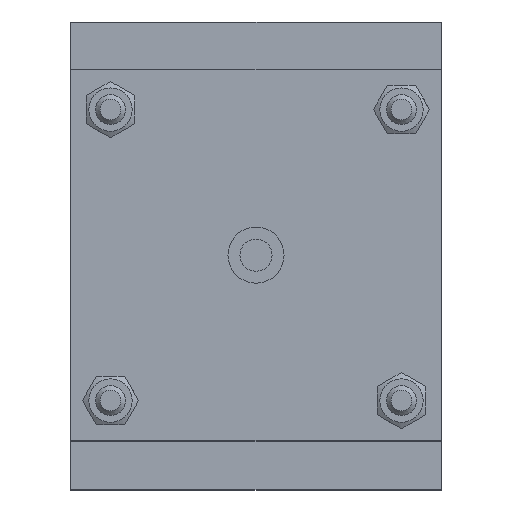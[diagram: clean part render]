
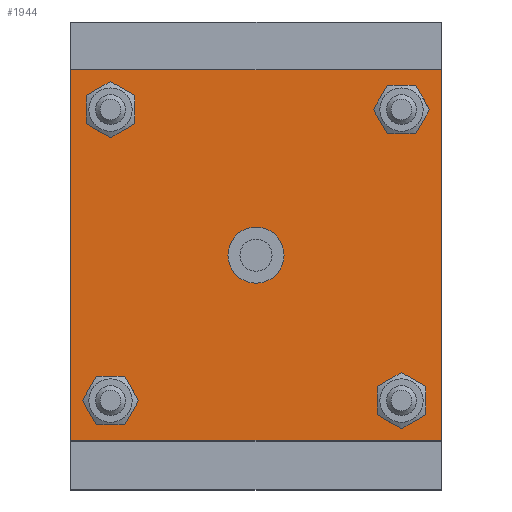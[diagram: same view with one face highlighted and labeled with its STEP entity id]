
A CAD part, top view. The second image highlights one B-rep face of the part: STEP entity #1944.
In plain terms, the highlighted planar face has unit normal (0, 0, 1).
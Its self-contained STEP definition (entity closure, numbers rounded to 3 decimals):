
#314=CARTESIAN_POINT('',(-44.691,-38.891,160.));
#315=VERTEX_POINT('',#314);
#316=CARTESIAN_POINT('',(-38.891,-38.891,160.));
#317=DIRECTION('',(0.0,0.0,-1.0));
#318=DIRECTION('',(-1.0,0.0,0.0));
#319=AXIS2_PLACEMENT_3D('',#316,#317,#318);
#320=CIRCLE('',#319,5.8);
#321=EDGE_CURVE('',#315,#315,#320,.T.);
#674=CARTESIAN_POINT('',(-38.891,44.691,160.));
#675=VERTEX_POINT('',#674);
#676=CARTESIAN_POINT('',(-38.891,38.891,160.));
#677=DIRECTION('',(0.0,0.0,-1.0));
#678=DIRECTION('',(0.0,1.0,0.0));
#679=AXIS2_PLACEMENT_3D('',#676,#677,#678);
#680=CIRCLE('',#679,5.8);
#681=EDGE_CURVE('',#675,#675,#680,.T.);
#1034=CARTESIAN_POINT('',(44.691,38.891,160.));
#1035=VERTEX_POINT('',#1034);
#1036=CARTESIAN_POINT('',(38.891,38.891,160.));
#1037=DIRECTION('',(0.0,0.0,-1.0));
#1038=DIRECTION('',(1.0,0.0,0.0));
#1039=AXIS2_PLACEMENT_3D('',#1036,#1037,#1038);
#1040=CIRCLE('',#1039,5.8);
#1041=EDGE_CURVE('',#1035,#1035,#1040,.T.);
#1394=CARTESIAN_POINT('',(38.891,-44.691,160.));
#1395=VERTEX_POINT('',#1394);
#1396=CARTESIAN_POINT('',(38.891,-38.891,160.));
#1397=DIRECTION('',(0.0,0.0,-1.0));
#1398=DIRECTION('',(0.0,-1.0,0.0));
#1399=AXIS2_PLACEMENT_3D('',#1396,#1397,#1398);
#1400=CIRCLE('',#1399,5.8);
#1401=EDGE_CURVE('',#1395,#1395,#1400,.T.);
#1738=CARTESIAN_POINT('',(7.5,0.0,160.));
#1739=VERTEX_POINT('',#1738);
#1740=CARTESIAN_POINT('',(0.0,0.0,160.));
#1741=DIRECTION('',(0.0,0.0,-1.0));
#1742=DIRECTION('',(1.0,0.0,0.0));
#1743=AXIS2_PLACEMENT_3D('',#1740,#1741,#1742);
#1744=CIRCLE('',#1743,7.5);
#1745=EDGE_CURVE('',#1739,#1739,#1744,.T.);
#1799=CARTESIAN_POINT('',(49.5,49.5,160.));
#1800=VERTEX_POINT('',#1799);
#1801=CARTESIAN_POINT('',(49.5,-49.5,160.));
#1802=VERTEX_POINT('',#1801);
#1803=CARTESIAN_POINT('',(49.5,49.5,160.));
#1804=DIRECTION('',(0.0,-1.0,0.0));
#1805=VECTOR('',#1804,99.0);
#1806=LINE('',#1803,#1805);
#1807=EDGE_CURVE('',#1800,#1802,#1806,.T.);
#1839=CARTESIAN_POINT('',(-49.5,-49.5,160.));
#1840=VERTEX_POINT('',#1839);
#1841=CARTESIAN_POINT('',(49.5,-49.5,160.));
#1842=DIRECTION('',(-1.0,0.0,0.0));
#1843=VECTOR('',#1842,99.);
#1844=LINE('',#1841,#1843);
#1845=EDGE_CURVE('',#1802,#1840,#1844,.T.);
#1870=CARTESIAN_POINT('',(-49.5,49.5,160.));
#1871=VERTEX_POINT('',#1870);
#1872=CARTESIAN_POINT('',(-49.5,-49.5,160.));
#1873=DIRECTION('',(0.0,1.0,0.0));
#1874=VECTOR('',#1873,99.0);
#1875=LINE('',#1872,#1874);
#1876=EDGE_CURVE('',#1840,#1871,#1875,.T.);
#1901=CARTESIAN_POINT('',(-49.5,49.5,160.));
#1902=DIRECTION('',(1.0,0.0,0.0));
#1903=VECTOR('',#1902,99.0);
#1904=LINE('',#1901,#1903);
#1905=EDGE_CURVE('',#1871,#1800,#1904,.T.);
#1918=CARTESIAN_POINT('',(0.,0.,160.));
#1919=DIRECTION('',(0.0,0.0,1.0));
#1920=DIRECTION('',(1.0,0.0,0.0));
#1921=AXIS2_PLACEMENT_3D('',#1918,#1919,#1920);
#1922=PLANE('',#1921);
#1923=ORIENTED_EDGE('',*,*,#1807,.F.);
#1924=ORIENTED_EDGE('',*,*,#1905,.F.);
#1925=ORIENTED_EDGE('',*,*,#1876,.F.);
#1926=ORIENTED_EDGE('',*,*,#1845,.F.);
#1927=EDGE_LOOP('',(#1923,#1924,#1925,#1926));
#1928=FACE_OUTER_BOUND('',#1927,.T.);
#1929=ORIENTED_EDGE('',*,*,#321,.T.);
#1930=EDGE_LOOP('',(#1929));
#1931=FACE_BOUND('',#1930,.T.);
#1932=ORIENTED_EDGE('',*,*,#681,.T.);
#1933=EDGE_LOOP('',(#1932));
#1934=FACE_BOUND('',#1933,.T.);
#1935=ORIENTED_EDGE('',*,*,#1041,.T.);
#1936=EDGE_LOOP('',(#1935));
#1937=FACE_BOUND('',#1936,.T.);
#1938=ORIENTED_EDGE('',*,*,#1401,.T.);
#1939=EDGE_LOOP('',(#1938));
#1940=FACE_BOUND('',#1939,.T.);
#1941=ORIENTED_EDGE('',*,*,#1745,.T.);
#1942=EDGE_LOOP('',(#1941));
#1943=FACE_BOUND('',#1942,.T.);
#1944=ADVANCED_FACE('',(#1928,#1931,#1934,#1937,#1940,#1943),#1922,.T.);
